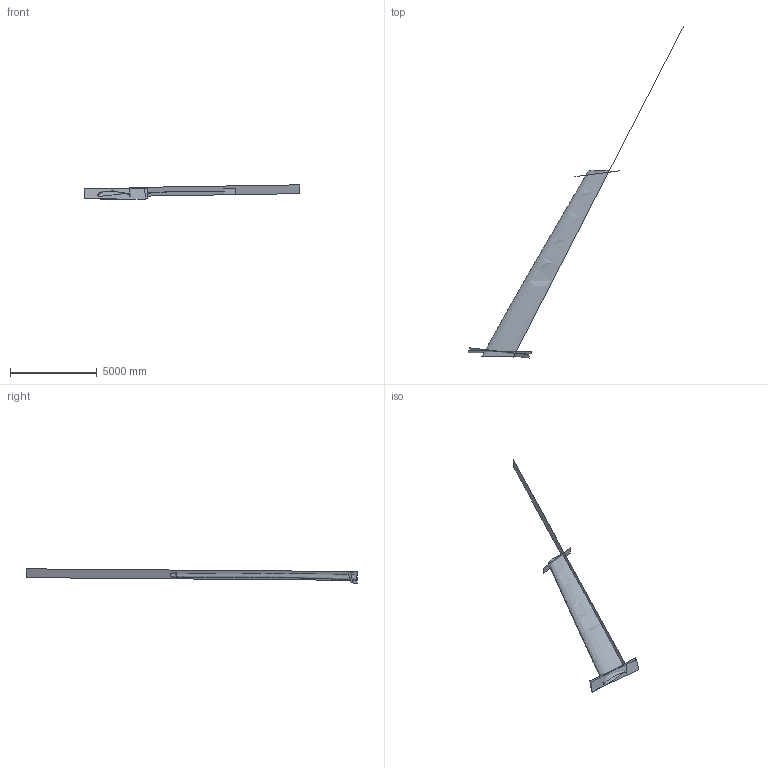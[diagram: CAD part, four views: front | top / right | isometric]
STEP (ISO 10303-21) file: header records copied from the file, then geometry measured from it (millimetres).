
FILE_DESCRIPTION((''),'2;1');
FILE_NAME('','2022-02-22T08:54:04',(''),(''),'','CADfix','');
FILE_SCHEMA(('AUTOMOTIVE_DESIGN { 1 0 10303 214 1 1 1 1 }'));
Length unit declared in the file: inch
Bounding box: 12400.9 x 19144.16 x 826.22 mm (x, y, z)
Surface area: 50723972.5 mm2 (no closed solid volume)
Topology: 0 solids, 0 shells, 5 faces, 20 edges, 20 vertices
Faces by surface type: bspline 5
Entity records: 16836 total; most frequent: CARTESIAN_POINT 16812, B_SPLINE_SURFACE_WITH_KNOTS 5, DIMENSIONAL_EXPONENTS 2, PLANE_ANGLE_MEASURE_WITH_UNIT 1, LENGTH_MEASURE_WITH_UNIT 1, UNCERTAINTY_MEASURE_WITH_UNIT 1, GEOMETRIC_SET 1, GEOMETRICALLY_BOUNDED_SURFACE_SHAPE_REPRESENTATION 1
